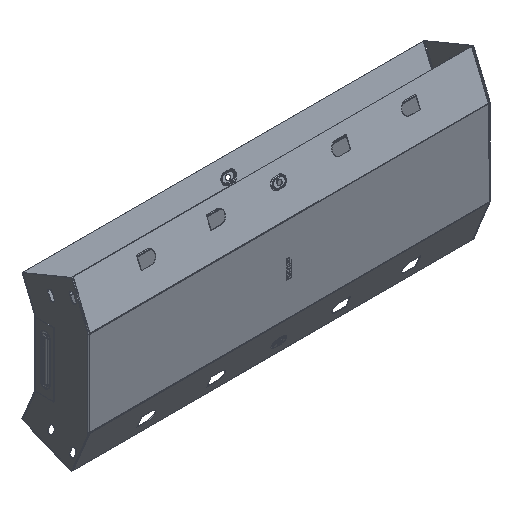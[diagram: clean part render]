
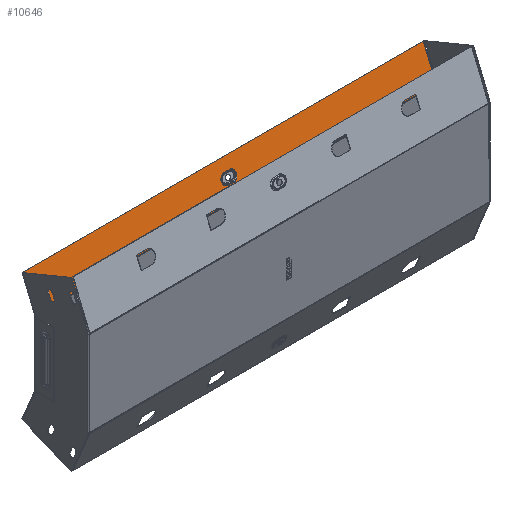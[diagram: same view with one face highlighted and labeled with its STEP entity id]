
A CAD part, isometric view. The second image highlights one B-rep face of the part: STEP entity #10646.
In plain terms, the highlighted planar face has unit normal (0, -0.924, 0.383).
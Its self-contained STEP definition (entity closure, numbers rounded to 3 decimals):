
#91 = AXIS2_PLACEMENT_3D ( 'NONE', #7552, #2900, #8326 ) ;
#259 = DIRECTION ( 'NONE',  ( 0., -0.383, -0.924 ) ) ;
#368 = DIRECTION ( 'NONE',  ( 0., -0.383, -0.924 ) ) ;
#582 = CARTESIAN_POINT ( 'NONE',  ( 3.5, 9.211, 72.327 ) ) ;
#1440 = CARTESIAN_POINT ( 'NONE',  ( -299., 18.395, 94.5 ) ) ;
#1520 = DIRECTION ( 'NONE',  ( -1., 0., 0. ) ) ;
#1646 = FACE_BOUND ( 'NONE', #8298, .T. ) ;
#1794 = DIRECTION ( 'NONE',  ( 0., -0.383, -0.924 ) ) ;
#1870 = EDGE_CURVE ( 'NONE', #12499, #6518, #5785, .T. ) ;
#1919 = CIRCLE ( 'NONE', #11843, 7.598 ) ;
#1996 = CARTESIAN_POINT ( 'NONE',  ( 299., 18.395, 94.5 ) ) ;
#2027 = ORIENTED_EDGE ( 'NONE', *, *, #9164, .F. ) ;
#2279 = LINE ( 'NONE', #9608, #10956 ) ;
#2290 = VECTOR ( 'NONE', #1520, 1000. ) ;
#2327 = CARTESIAN_POINT ( 'NONE',  ( -3.5, 6.303, 65.307 ) ) ;
#2463 = AXIS2_PLACEMENT_3D ( 'NONE', #582, #8865, #1794 ) ;
#2478 = ORIENTED_EDGE ( 'NONE', *, *, #9189, .T. ) ;
#2500 = DIRECTION ( 'NONE',  ( 1., 0., 0. ) ) ;
#2613 = DIRECTION ( 'NONE',  ( -1., 0., 0. ) ) ;
#2900 = DIRECTION ( 'NONE',  ( 0., 0.924, -0.383 ) ) ;
#4160 = DIRECTION ( 'NONE',  ( 0., -0.383, -0.924 ) ) ;
#4194 = ORIENTED_EDGE ( 'NONE', *, *, #11472, .F. ) ;
#4463 = DIRECTION ( 'NONE',  ( -1., 0., 0. ) ) ;
#4567 = CARTESIAN_POINT ( 'NONE',  ( 299., -0.663, 48.49 ) ) ;
#4616 = EDGE_LOOP ( 'NONE', ( #2478, #9991, #4194, #14374 ) ) ;
#5205 = CARTESIAN_POINT ( 'NONE',  ( -3.5, 12.118, 79.347 ) ) ;
#5294 = LINE ( 'NONE', #7893, #9901 ) ;
#5376 = ORIENTED_EDGE ( 'NONE', *, *, #10960, .F. ) ;
#5494 = LINE ( 'NONE', #11225, #6582 ) ;
#5671 = EDGE_CURVE ( 'NONE', #10091, #5709, #6793, .T. ) ;
#5709 = VERTEX_POINT ( 'NONE', #13998 ) ;
#5785 = LINE ( 'NONE', #5205, #2290 ) ;
#5918 = VERTEX_POINT ( 'NONE', #4567 ) ;
#6116 = LINE ( 'NONE', #7454, #8518 ) ;
#6214 = FACE_OUTER_BOUND ( 'NONE', #4616, .T. ) ;
#6518 = VERTEX_POINT ( 'NONE', #10141 ) ;
#6582 = VECTOR ( 'NONE', #4160, 1000. ) ;
#6793 = LINE ( 'NONE', #6940, #11447 ) ;
#6940 = CARTESIAN_POINT ( 'NONE',  ( -3.5, 6.303, 65.307 ) ) ;
#7454 = CARTESIAN_POINT ( 'NONE',  ( -299., -0.739, 48.306 ) ) ;
#7552 = CARTESIAN_POINT ( 'NONE',  ( 299., -0.739, 48.306 ) ) ;
#7893 = CARTESIAN_POINT ( 'NONE',  ( 299., 18.395, 94.5 ) ) ;
#8298 = EDGE_LOOP ( 'NONE', ( #5376, #9274, #2027, #13087 ) ) ;
#8326 = DIRECTION ( 'NONE',  ( 0., 0.383, 0.924 ) ) ;
#8518 = VECTOR ( 'NONE', #368, 1000. ) ;
#8865 = DIRECTION ( 'NONE',  ( 0., -0.924, 0.383 ) ) ;
#9164 = EDGE_CURVE ( 'NONE', #6518, #10091, #1919, .T. ) ;
#9189 = EDGE_CURVE ( 'NONE', #12017, #10740, #6116, .T. ) ;
#9274 = ORIENTED_EDGE ( 'NONE', *, *, #5671, .F. ) ;
#9581 = CARTESIAN_POINT ( 'NONE',  ( -3.5, 9.211, 72.327 ) ) ;
#9608 = CARTESIAN_POINT ( 'NONE',  ( 299., -0.663, 48.49 ) ) ;
#9863 = CIRCLE ( 'NONE', #2463, 7.598 ) ;
#9901 = VECTOR ( 'NONE', #4463, 1000. ) ;
#9991 = ORIENTED_EDGE ( 'NONE', *, *, #13743, .F. ) ;
#10091 = VERTEX_POINT ( 'NONE', #2327 ) ;
#10141 = CARTESIAN_POINT ( 'NONE',  ( -3.5, 12.118, 79.347 ) ) ;
#10646 = ADVANCED_FACE ( 'NONE', ( #1646, #6214 ), #12280, .F. ) ;
#10740 = VERTEX_POINT ( 'NONE', #12481 ) ;
#10954 = CARTESIAN_POINT ( 'NONE',  ( 3.5, 12.118, 79.347 ) ) ;
#10956 = VECTOR ( 'NONE', #2613, 1000. ) ;
#10958 = VERTEX_POINT ( 'NONE', #1996 ) ;
#10960 = EDGE_CURVE ( 'NONE', #5709, #12499, #9863, .T. ) ;
#11225 = CARTESIAN_POINT ( 'NONE',  ( 299., -0.739, 48.306 ) ) ;
#11447 = VECTOR ( 'NONE', #2500, 1000. ) ;
#11472 = EDGE_CURVE ( 'NONE', #10958, #5918, #5494, .T. ) ;
#11843 = AXIS2_PLACEMENT_3D ( 'NONE', #9581, #14327, #259 ) ;
#12017 = VERTEX_POINT ( 'NONE', #1440 ) ;
#12280 = PLANE ( 'NONE',  #91 ) ;
#12481 = CARTESIAN_POINT ( 'NONE',  ( -299., -0.663, 48.49 ) ) ;
#12499 = VERTEX_POINT ( 'NONE', #10954 ) ;
#13087 = ORIENTED_EDGE ( 'NONE', *, *, #1870, .F. ) ;
#13743 = EDGE_CURVE ( 'NONE', #5918, #10740, #2279, .T. ) ;
#13998 = CARTESIAN_POINT ( 'NONE',  ( 3.5, 6.303, 65.307 ) ) ;
#14327 = DIRECTION ( 'NONE',  ( 0., -0.924, 0.383 ) ) ;
#14374 = ORIENTED_EDGE ( 'NONE', *, *, #14836, .T. ) ;
#14836 = EDGE_CURVE ( 'NONE', #10958, #12017, #5294, .T. ) ;
